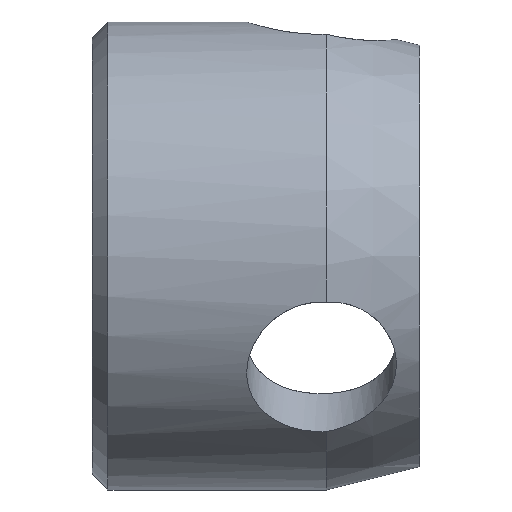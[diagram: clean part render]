
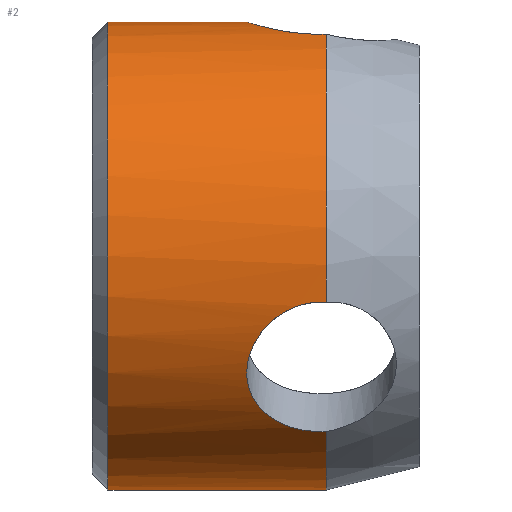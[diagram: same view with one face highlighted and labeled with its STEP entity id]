
A CAD part, front view. The second image highlights one B-rep face of the part: STEP entity #2.
In plain terms, the highlighted cylindrical face has radius 10 mm (diameter 20 mm), a partial arc.
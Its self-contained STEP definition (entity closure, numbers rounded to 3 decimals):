
#2 = ADVANCED_FACE ( 'NONE', ( #333 ), #925, .T. ) ;
#22 = DIRECTION ( 'NONE',  ( 0., 0., -1. ) ) ;
#24 = ORIENTED_EDGE ( 'NONE', *, *, #892, .T. ) ;
#29 = CARTESIAN_POINT ( 'NONE',  ( -7.048, -7.829, -6.224 ) ) ;
#34 = CARTESIAN_POINT ( 'NONE',  ( -4.871, -6.655, -7.464 ) ) ;
#35 = CARTESIAN_POINT ( 'NONE',  ( -4., -6.61, -7.504 ) ) ;
#42 = CARTESIAN_POINT ( 'NONE',  ( -5.691, -6.884, -7.254 ) ) ;
#45 = CARTESIAN_POINT ( 'NONE',  ( -6.942, -9.373, -3.49 ) ) ;
#46 = CARTESIAN_POINT ( 'NONE',  ( -4., -6.61, -7.504 ) ) ;
#51 = VERTEX_POINT ( 'NONE', #837 ) ;
#62 = CARTESIAN_POINT ( 'NONE',  ( -4.221, -3.208, 9.472 ) ) ;
#68 = CARTESIAN_POINT ( 'NONE',  ( -7.221, -1.078, 9.944 ) ) ;
#76 = DIRECTION ( 'NONE',  ( 1., 0., 0. ) ) ;
#95 = DIRECTION ( 'NONE',  ( 1., 0., 0. ) ) ;
#114 = VERTEX_POINT ( 'NONE', #1077 ) ;
#118 = EDGE_LOOP ( 'NONE', ( #535, #523, #24, #629, #600, #279, #677, #955 ) ) ;
#120 = CARTESIAN_POINT ( 'NONE',  ( -6.062, -7.054, -7.089 ) ) ;
#135 = CARTESIAN_POINT ( 'NONE',  ( -6.942, -1.664, 9.862 ) ) ;
#139 = CARTESIAN_POINT ( 'NONE',  ( -6.549, -2.184, 9.76 ) ) ;
#142 = AXIS2_PLACEMENT_3D ( 'NONE', #243, #76, #498 ) ;
#144 = VERTEX_POINT ( 'NONE', #818 ) ;
#148 = LINE ( 'NONE', #394, #203 ) ;
#168 = B_SPLINE_CURVE_WITH_KNOTS ( 'NONE', 3,
 ( #648, #62, #311, #307, #644, #992, #568, #398, #883, #139, #811, #135, #559, #68, #633, #403, #732, #974 ),
 .UNSPECIFIED., .F., .F.,
 ( 4, 2, 2, 2, 2, 2, 2, 2, 4 ),
 ( 0., 0.001, 0.001, 0.002, 0.003, 0.003, 0.004, 0.005, 0.005 ),
 .UNSPECIFIED. ) ;
#169 = EDGE_CURVE ( 'NONE', #871, #791, #841, .T. ) ;
#193 = CARTESIAN_POINT ( 'NONE',  ( -7.221, -8.073, -5.905 ) ) ;
#201 = VERTEX_POINT ( 'NONE', #35 ) ;
#203 = VECTOR ( 'NONE', #968, 1000. ) ;
#207 = CARTESIAN_POINT ( 'NONE',  ( -5.086, -6.698, -7.426 ) ) ;
#211 = CARTESIAN_POINT ( 'NONE',  ( -7.377, -8.435, -5.376 ) ) ;
#221 = CARTESIAN_POINT ( 'NONE',  ( -6.235, -9.631, -2.697 ) ) ;
#224 = CARTESIAN_POINT ( 'NONE',  ( -4.221, -9.806, -1.958 ) ) ;
#241 = DIRECTION ( 'NONE',  ( 0., 0., 1. ) ) ;
#243 = CARTESIAN_POINT ( 'NONE',  ( -4., 0., 0. ) ) ;
#279 = ORIENTED_EDGE ( 'NONE', *, *, #510, .T. ) ;
#293 = CARTESIAN_POINT ( 'NONE',  ( -7.289, -9.062, -4.233 ) ) ;
#296 = CARTESIAN_POINT ( 'NONE',  ( -4.439, -6.606, -7.507 ) ) ;
#302 = EDGE_CURVE ( 'NONE', #51, #144, #602, .T. ) ;
#307 = CARTESIAN_POINT ( 'NONE',  ( -4.871, -3.136, 9.495 ) ) ;
#311 = CARTESIAN_POINT ( 'NONE',  ( -4.439, -3.198, 9.475 ) ) ;
#319 = DIRECTION ( 'NONE',  ( 0., 0., -1. ) ) ;
#333 = FACE_OUTER_BOUND ( 'NONE', #118, .T. ) ;
#346 = B_SPLINE_CURVE_WITH_KNOTS ( 'NONE', 3,
 ( #665, #698, #1045, #293, #961, #462, #45, #710, #894, #221, #553, #810, #624, #899, #967, #556, #224, #808 ),
 .UNSPECIFIED., .F., .F.,
 ( 4, 2, 2, 2, 2, 2, 2, 2, 4 ),
 ( 0.005, 0.006, 0.007, 0.007, 0.008, 0.009, 0.009, 0.01, 0.01 ),
 .UNSPECIFIED. ) ;
#363 = CARTESIAN_POINT ( 'NONE',  ( 21.562, 0., 10. ) ) ;
#384 = CARTESIAN_POINT ( 'NONE',  ( -6.692, -7.474, -6.647 ) ) ;
#393 = B_SPLINE_CURVE_WITH_KNOTS ( 'NONE', 3,
 ( #46, #866, #296, #34, #207, #622, #42, #120, #965, #606, #384, #707, #29, #193, #531, #211, #548, #616 ),
 .UNSPECIFIED., .F., .F.,
 ( 4, 2, 2, 2, 2, 2, 2, 2, 4 ),
 ( 0., 0.001, 0.001, 0.002, 0.003, 0.003, 0.004, 0.005, 0.005 ),
 .UNSPECIFIED. ) ;
#394 = CARTESIAN_POINT ( 'NONE',  ( 21.562, 0., -10. ) ) ;
#398 = CARTESIAN_POINT ( 'NONE',  ( -6.062, -2.612, 9.654 ) ) ;
#403 = CARTESIAN_POINT ( 'NONE',  ( -7.377, -0.439, 9.993 ) ) ;
#462 = CARTESIAN_POINT ( 'NONE',  ( -7.048, -9.305, -3.669 ) ) ;
#498 = DIRECTION ( 'NONE',  ( 0., 0., -1. ) ) ;
#510 = EDGE_CURVE ( 'NONE', #114, #791, #346, .T. ) ;
#519 = EDGE_CURVE ( 'NONE', #201, #849, #893, .T. ) ;
#523 = ORIENTED_EDGE ( 'NONE', *, *, #659, .T. ) ;
#531 = CARTESIAN_POINT ( 'NONE',  ( -7.288, -8.197, -5.732 ) ) ;
#535 = ORIENTED_EDGE ( 'NONE', *, *, #302, .F. ) ;
#545 = CARTESIAN_POINT ( 'NONE',  ( -13.325, 0., -10. ) ) ;
#548 = CARTESIAN_POINT ( 'NONE',  ( -7.4, -8.55, -5.192 ) ) ;
#549 = DIRECTION ( 'NONE',  ( 1., 0., 0. ) ) ;
#553 = CARTESIAN_POINT ( 'NONE',  ( -6.061, -9.666, -2.565 ) ) ;
#556 = CARTESIAN_POINT ( 'NONE',  ( -4.439, -9.805, -1.967 ) ) ;
#559 = CARTESIAN_POINT ( 'NONE',  ( -7.048, -1.476, 9.893 ) ) ;
#560 = DIRECTION ( 'NONE',  ( 1., 0., 0. ) ) ;
#568 = CARTESIAN_POINT ( 'NONE',  ( -5.691, -2.84, 9.589 ) ) ;
#600 = ORIENTED_EDGE ( 'NONE', *, *, #854, .T. ) ;
#602 = LINE ( 'NONE', #363, #614 ) ;
#606 = CARTESIAN_POINT ( 'NONE',  ( -6.549, -7.36, -6.771 ) ) ;
#614 = VECTOR ( 'NONE', #670, 1000. ) ;
#616 = CARTESIAN_POINT ( 'NONE',  ( -7.4, -8.66, -5. ) ) ;
#622 = CARTESIAN_POINT ( 'NONE',  ( -5.496, -6.812, -7.321 ) ) ;
#624 = CARTESIAN_POINT ( 'NONE',  ( -5.496, -9.746, -2.239 ) ) ;
#629 = ORIENTED_EDGE ( 'NONE', *, *, #519, .F. ) ;
#633 = CARTESIAN_POINT ( 'NONE',  ( -7.288, -0.866, 9.965 ) ) ;
#644 = CARTESIAN_POINT ( 'NONE',  ( -5.086, -3.082, 9.513 ) ) ;
#648 = CARTESIAN_POINT ( 'NONE',  ( -4., -3.194, 9.476 ) ) ;
#659 = EDGE_CURVE ( 'NONE', #51, #863, #712, .T. ) ;
#665 = CARTESIAN_POINT ( 'NONE',  ( -7.4, -8.66, -5. ) ) ;
#670 = DIRECTION ( 'NONE',  ( 1., 0., 0. ) ) ;
#677 = ORIENTED_EDGE ( 'NONE', *, *, #169, .F. ) ;
#688 = CARTESIAN_POINT ( 'NONE',  ( -4., -9.804, -1.972 ) ) ;
#695 = CARTESIAN_POINT ( 'NONE',  ( -4., -3.194, 9.476 ) ) ;
#698 = CARTESIAN_POINT ( 'NONE',  ( -7.4, -8.771, -4.808 ) ) ;
#707 = CARTESIAN_POINT ( 'NONE',  ( -6.942, -7.709, -6.372 ) ) ;
#710 = CARTESIAN_POINT ( 'NONE',  ( -6.692, -9.493, -3.149 ) ) ;
#712 = CIRCLE ( 'NONE', #869, 10. ) ;
#732 = CARTESIAN_POINT ( 'NONE',  ( -7.4, -0.221, 10. ) ) ;
#791 = VERTEX_POINT ( 'NONE', #688 ) ;
#794 = CARTESIAN_POINT ( 'NONE',  ( -4., 0., -10. ) ) ;
#808 = CARTESIAN_POINT ( 'NONE',  ( -4., -9.804, -1.972 ) ) ;
#810 = CARTESIAN_POINT ( 'NONE',  ( -5.691, -9.724, -2.335 ) ) ;
#811 = CARTESIAN_POINT ( 'NONE',  ( -6.692, -2.019, 9.796 ) ) ;
#818 = CARTESIAN_POINT ( 'NONE',  ( -7.4, 0., 10. ) ) ;
#837 = CARTESIAN_POINT ( 'NONE',  ( -13.325, 0., 10. ) ) ;
#838 = CARTESIAN_POINT ( 'NONE',  ( 21.562, 0., 0. ) ) ;
#841 = CIRCLE ( 'NONE', #142, 10. ) ;
#849 = VERTEX_POINT ( 'NONE', #794 ) ;
#854 = EDGE_CURVE ( 'NONE', #201, #114, #393, .T. ) ;
#863 = VERTEX_POINT ( 'NONE', #545 ) ;
#866 = CARTESIAN_POINT ( 'NONE',  ( -4.221, -6.599, -7.514 ) ) ;
#869 = AXIS2_PLACEMENT_3D ( 'NONE', #987, #560, #241 ) ;
#871 = VERTEX_POINT ( 'NONE', #695 ) ;
#876 = AXIS2_PLACEMENT_3D ( 'NONE', #881, #549, #319 ) ;
#881 = CARTESIAN_POINT ( 'NONE',  ( -4., 0., 0. ) ) ;
#883 = CARTESIAN_POINT ( 'NONE',  ( -6.235, -2.479, 9.689 ) ) ;
#892 = EDGE_CURVE ( 'NONE', #863, #849, #148, .T. ) ;
#893 = CIRCLE ( 'NONE', #876, 10. ) ;
#894 = CARTESIAN_POINT ( 'NONE',  ( -6.548, -9.544, -2.988 ) ) ;
#899 = CARTESIAN_POINT ( 'NONE',  ( -5.088, -9.78, -2.088 ) ) ;
#925 = CYLINDRICAL_SURFACE ( 'NONE', #1073, 10. ) ;
#955 = ORIENTED_EDGE ( 'NONE', *, *, #975, .T. ) ;
#961 = CARTESIAN_POINT ( 'NONE',  ( -7.221, -9.15, -4.04 ) ) ;
#965 = CARTESIAN_POINT ( 'NONE',  ( -6.235, -7.151, -6.992 ) ) ;
#967 = CARTESIAN_POINT ( 'NONE',  ( -4.872, -9.791, -2.032 ) ) ;
#968 = DIRECTION ( 'NONE',  ( 1., 0., 0. ) ) ;
#974 = CARTESIAN_POINT ( 'NONE',  ( -7.4, 0., 10. ) ) ;
#975 = EDGE_CURVE ( 'NONE', #871, #144, #168, .T. ) ;
#987 = CARTESIAN_POINT ( 'NONE',  ( -13.325, 0., 0. ) ) ;
#992 = CARTESIAN_POINT ( 'NONE',  ( -5.496, -2.934, 9.56 ) ) ;
#1045 = CARTESIAN_POINT ( 'NONE',  ( -7.377, -8.873, -4.617 ) ) ;
#1073 = AXIS2_PLACEMENT_3D ( 'NONE', #838, #95, #22 ) ;
#1077 = CARTESIAN_POINT ( 'NONE',  ( -7.4, -8.66, -5. ) ) ;
